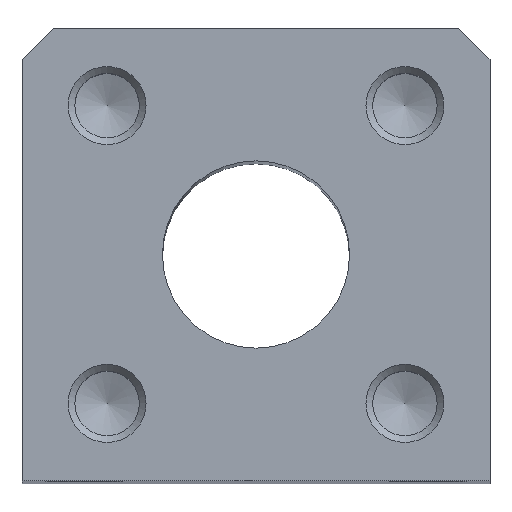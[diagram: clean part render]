
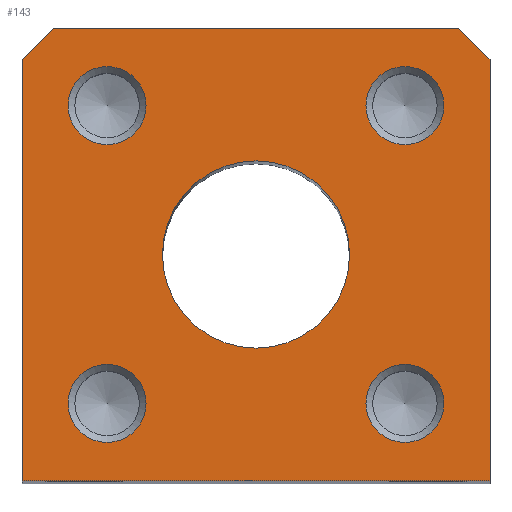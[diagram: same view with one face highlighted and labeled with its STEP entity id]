
A CAD part, top view. The second image highlights one B-rep face of the part: STEP entity #143.
In plain terms, the highlighted planar face has unit normal (0, 0, 1).
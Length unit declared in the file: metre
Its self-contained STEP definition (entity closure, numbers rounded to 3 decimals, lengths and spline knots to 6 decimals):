
#143 = ADVANCED_FACE( '', ( #347, #348, #349, #350, #351, #352 ), #353, .F. );
#347 = FACE_BOUND( '', #616, .T. );
#348 = FACE_BOUND( '', #617, .T. );
#349 = FACE_BOUND( '', #618, .T. );
#350 = FACE_BOUND( '', #619, .T. );
#351 = FACE_BOUND( '', #620, .T. );
#352 = FACE_OUTER_BOUND( '', #621, .T. );
#353 = PLANE( '', #622 );
#616 = EDGE_LOOP( '', ( #936 ) );
#617 = EDGE_LOOP( '', ( #937 ) );
#618 = EDGE_LOOP( '', ( #938 ) );
#619 = EDGE_LOOP( '', ( #939 ) );
#620 = EDGE_LOOP( '', ( #940 ) );
#621 = EDGE_LOOP( '', ( #941, #942, #943, #944, #945, #946 ) );
#622 = AXIS2_PLACEMENT_3D( '', #947, #948, #949 );
#936 = ORIENTED_EDGE( '', *, *, #1265, .T. );
#937 = ORIENTED_EDGE( '', *, *, #1266, .T. );
#938 = ORIENTED_EDGE( '', *, *, #1245, .F. );
#939 = ORIENTED_EDGE( '', *, *, #1239, .F. );
#940 = ORIENTED_EDGE( '', *, *, #1204, .T. );
#941 = ORIENTED_EDGE( '', *, *, #1267, .F. );
#942 = ORIENTED_EDGE( '', *, *, #1268, .T. );
#943 = ORIENTED_EDGE( '', *, *, #1269, .F. );
#944 = ORIENTED_EDGE( '', *, *, #1221, .F. );
#945 = ORIENTED_EDGE( '', *, *, #1270, .F. );
#946 = ORIENTED_EDGE( '', *, *, #1271, .T. );
#947 = CARTESIAN_POINT( '', ( -0.015, 0.0145, 0. ) );
#948 = DIRECTION( '', ( 0., 0., -1. ) );
#949 = DIRECTION( '', ( 0., 1., 0. ) );
#1204 = EDGE_CURVE( '', #1364, #1364, #1365, .T. );
#1221 = EDGE_CURVE( '', #1393, #1394, #1395, .T. );
#1239 = EDGE_CURVE( '', #1421, #1421, #1422, .T. );
#1245 = EDGE_CURVE( '', #1428, #1428, #1429, .T. );
#1265 = EDGE_CURVE( '', #1458, #1458, #1459, .T. );
#1266 = EDGE_CURVE( '', #1460, #1460, #1461, .T. );
#1267 = EDGE_CURVE( '', #1462, #1463, #1464, .T. );
#1268 = EDGE_CURVE( '', #1462, #1465, #1466, .F. );
#1269 = EDGE_CURVE( '', #1394, #1465, #1467, .T. );
#1270 = EDGE_CURVE( '', #1468, #1393, #1469, .T. );
#1271 = EDGE_CURVE( '', #1468, #1463, #1470, .F. );
#1364 = VERTEX_POINT( '', #1575 );
#1365 = CIRCLE( '', #1576, 0.0025 );
#1393 = VERTEX_POINT( '', #1604 );
#1394 = VERTEX_POINT( '', #1605 );
#1395 = LINE( '', #1606, #1607 );
#1421 = VERTEX_POINT( '', #1636 );
#1422 = CIRCLE( '', #1637, 0.0025 );
#1428 = VERTEX_POINT( '', #1643 );
#1429 = CIRCLE( '', #1644, 0.0025 );
#1458 = VERTEX_POINT( '', #1673 );
#1459 = CIRCLE( '', #1674, 0.006 );
#1460 = VERTEX_POINT( '', #1675 );
#1461 = CIRCLE( '', #1676, 0.0025 );
#1462 = VERTEX_POINT( '', #1677 );
#1463 = VERTEX_POINT( '', #1678 );
#1464 = LINE( '', #1679, #1680 );
#1465 = VERTEX_POINT( '', #1681 );
#1466 = LINE( '', #1682, #1683 );
#1467 = LINE( '', #1684, #1685 );
#1468 = VERTEX_POINT( '', #1686 );
#1469 = LINE( '', #1687, #1688 );
#1470 = LINE( '', #1689, #1690 );
#1575 = CARTESIAN_POINT( '', ( 0.007046, 0.009546, 0. ) );
#1576 = AXIS2_PLACEMENT_3D( '', #1809, #1810, #1811 );
#1604 = CARTESIAN_POINT( '', ( 0.015, -0.0145, 0. ) );
#1605 = CARTESIAN_POINT( '', ( -0.015, -0.0145, 0. ) );
#1606 = CARTESIAN_POINT( '', ( 0.015, -0.0145, 0. ) );
#1607 = VECTOR( '', #1845, 1. );
#1636 = CARTESIAN_POINT( '', ( -0.007046, 0.009546, 0. ) );
#1637 = AXIS2_PLACEMENT_3D( '', #1870, #1871, #1872 );
#1643 = CARTESIAN_POINT( '', ( 0.007046, -0.009546, 0. ) );
#1644 = AXIS2_PLACEMENT_3D( '', #1876, #1877, #1878 );
#1673 = CARTESIAN_POINT( '', ( -0.006, 0., 0. ) );
#1674 = AXIS2_PLACEMENT_3D( '', #1909, #1910, #1911 );
#1675 = CARTESIAN_POINT( '', ( -0.007046, -0.009546, 0. ) );
#1676 = AXIS2_PLACEMENT_3D( '', #1912, #1913, #1914 );
#1677 = CARTESIAN_POINT( '', ( -0.013, 0.0145, 0. ) );
#1678 = CARTESIAN_POINT( '', ( 0.013, 0.0145, 0. ) );
#1679 = CARTESIAN_POINT( '', ( -0.015, 0.0145, 0. ) );
#1680 = VECTOR( '', #1915, 1. );
#1681 = CARTESIAN_POINT( '', ( -0.015, 0.0125, 0. ) );
#1682 = CARTESIAN_POINT( '', ( -0.013, 0.0145, 0. ) );
#1683 = VECTOR( '', #1916, 1. );
#1684 = CARTESIAN_POINT( '', ( -0.015, -0.0145, 0. ) );
#1685 = VECTOR( '', #1917, 1. );
#1686 = CARTESIAN_POINT( '', ( 0.015, 0.0125, 0. ) );
#1687 = CARTESIAN_POINT( '', ( 0.015, 0.0145, 0. ) );
#1688 = VECTOR( '', #1918, 1. );
#1689 = CARTESIAN_POINT( '', ( 0.015, 0.0125, 0. ) );
#1690 = VECTOR( '', #1919, 1. );
#1809 = CARTESIAN_POINT( '', ( 0.009546, 0.009546, 0. ) );
#1810 = DIRECTION( '', ( 0., 0., -1. ) );
#1811 = DIRECTION( '', ( -1., 0., 0. ) );
#1845 = DIRECTION( '', ( -1., 0., 0. ) );
#1870 = CARTESIAN_POINT( '', ( -0.009546, 0.009546, 0. ) );
#1871 = DIRECTION( '', ( 0., 0., 1. ) );
#1872 = DIRECTION( '', ( 1., 0., 0. ) );
#1876 = CARTESIAN_POINT( '', ( 0.009546, -0.009546, 0. ) );
#1877 = DIRECTION( '', ( 0., 0., 1. ) );
#1878 = DIRECTION( '', ( -1., 0., 0. ) );
#1909 = CARTESIAN_POINT( '', ( 0., 0., 0. ) );
#1910 = DIRECTION( '', ( 0., 0., -1. ) );
#1911 = DIRECTION( '', ( -1., 0., 0. ) );
#1912 = CARTESIAN_POINT( '', ( -0.009546, -0.009546, 0. ) );
#1913 = DIRECTION( '', ( 0., 0., -1. ) );
#1914 = DIRECTION( '', ( 1., 0., 0. ) );
#1915 = DIRECTION( '', ( 1., 0., 0. ) );
#1916 = DIRECTION( '', ( 0.707, 0.707, 0. ) );
#1917 = DIRECTION( '', ( 0., 1., 0. ) );
#1918 = DIRECTION( '', ( 0., -1., 0. ) );
#1919 = DIRECTION( '', ( 0.707, -0.707, 0. ) );
